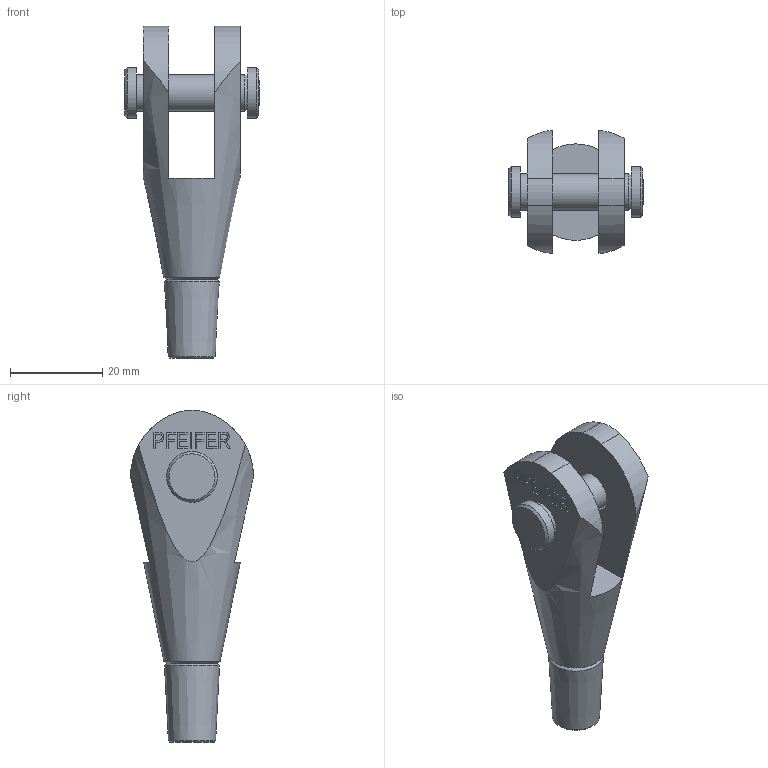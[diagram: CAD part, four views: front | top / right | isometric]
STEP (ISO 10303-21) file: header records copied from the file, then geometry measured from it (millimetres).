
FILE_DESCRIPTION(/* description */ (''),/* implementation_level */ '2;1');
FILE_NAME(/* name */ 'C:\Vault_WS\Designs\520-008-GAK.stp',/* time_stamp */ '2020-06-25T07:42:43+02:00',/* author */ ('schwarz'),/* organization */ (''),/* preprocessor_version */ 'ST-DEVELOPER v16.1',/* originating_system */ 'Autodesk Inventor 2016',/* authorisation */ '');
FILE_SCHEMA (('AUTOMOTIVE_DESIGN { 1 0 10303 214 3 1 1 }'));
Length unit declared in the file: centimetre
Products named in the file (1): 520-008-GAK-KMU-Kunde
Bounding box: 29.11 x 26.67 x 72 mm (x, y, z)
Volume: 13655.3 mm3; surface area: 7178.8 mm2
Topology: 2 solids, 3 shells, 186 faces, 482 edges, 319 vertices
Faces by surface type: plane 136, bspline 21, cylinder 16, cone 13
Full cylindrical faces by diameter (mm): 2.459 x1, 3 x1, 3.5 x1, 5.54 x1, 8 x1, 8.4 x1, 9 x2, 11 x2
Entity records: 5755 total; most frequent: CARTESIAN_POINT 1266, ORIENTED_EDGE 900, DIRECTION 768, EDGE_CURVE 450, LINE 348, VECTOR 348, VERTEX_POINT 310, EDGE_LOOP 230
